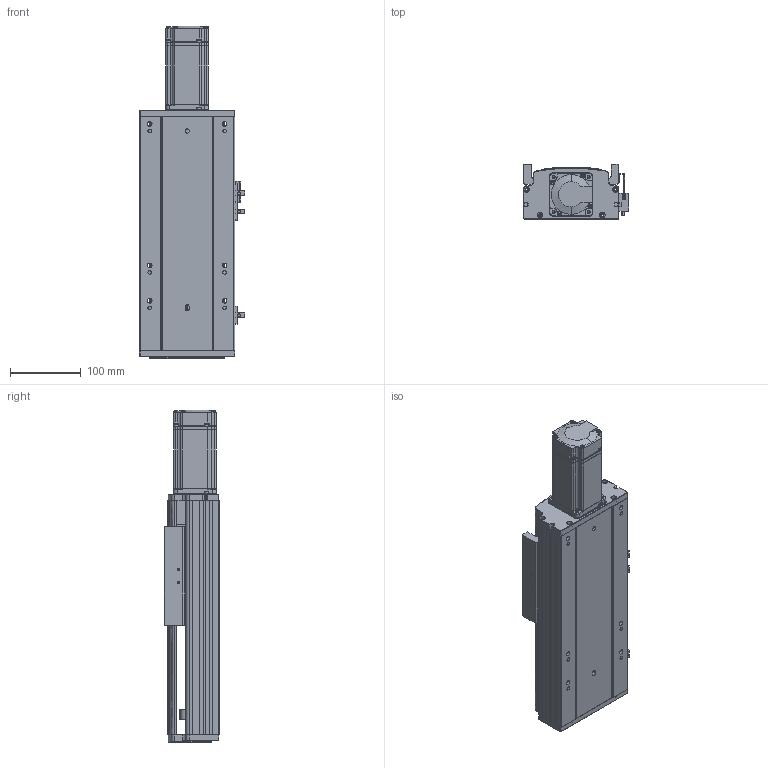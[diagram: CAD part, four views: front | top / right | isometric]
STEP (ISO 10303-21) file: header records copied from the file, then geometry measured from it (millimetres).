
FILE_DESCRIPTION (( 'STEP AP203' ), '1' );
FILE_NAME ('RY140Q-L2010-700-MK.SLDASM_0100.step', '2021-05-27T03:21:13', ( '盈信电脑' ), ( '东莞市道滘镇水果街19号' ), 'SwSTEP 2.0', 'SolidWorks 2016', '' );
FILE_SCHEMA (( 'CONFIG_CONTROL_DESIGN' ));
Length unit declared in the file: millimetre
Products named in the file (14): RY140綴裔啣; RY120外置感应片(140共用）; 滅袉蝶18-15; RY140Q-700-MK倰第菁釱_0100; RY140Q-700-MK倰第奻裔啣_0100; 侂狟400W侜督萇儂; 覜茼ん672; 滅袉蝶18-10; 鞠褒坶踡蹟譫BK12 ; RY140Q臏賑輸(20佪裝-J); RY140ヶ裔啣; RY140Q萇儂傷盓傅釱FK12(80.5酗M5); RY140Q-L2010-700-MK.SLDASM_0100; 15
Assembly tree (16 placements, depth 3):
  RY140Q-L2010-700-MK.SLDASM_0100
    RY140Q-700-MK倰第菁釱_0100
    RY140Q臏賑輸(20佪裝-J)
    RY140Q-700-MK倰第奻裔啣_0100
    RY140ヶ裔啣
    侂狟400W侜督萇儂
      15
    鞠褒坶踡蹟譫BK12 
    RY140綴裔啣
    覜茼ん672  x3
    RY120外置感应片(140共用）
    RY140Q萇儂傷盓傅釱FK12(80.5酗M5)
    滅袉蝶18-10
    滅袉蝶18-15  x2
Bounding box: 148.7 x 78 x 469.5 mm (x, y, z)
Volume: 1691865.4 mm3; surface area: 527975.1 mm2
Topology: 15 solids, 15 shells, 1957 faces, 5372 edges, 3463 vertices
Faces by surface type: plane 1074, cylinder 642, cone 156, bspline 85
Entity records: 64663 total; most frequent: CARTESIAN_POINT 15552, ORIENTED_EDGE 10124, DIRECTION 9584, EDGE_CURVE 5062, LINE 3344, VECTOR 3344, VERTEX_POINT 3323, AXIS2_PLACEMENT_3D 3120
